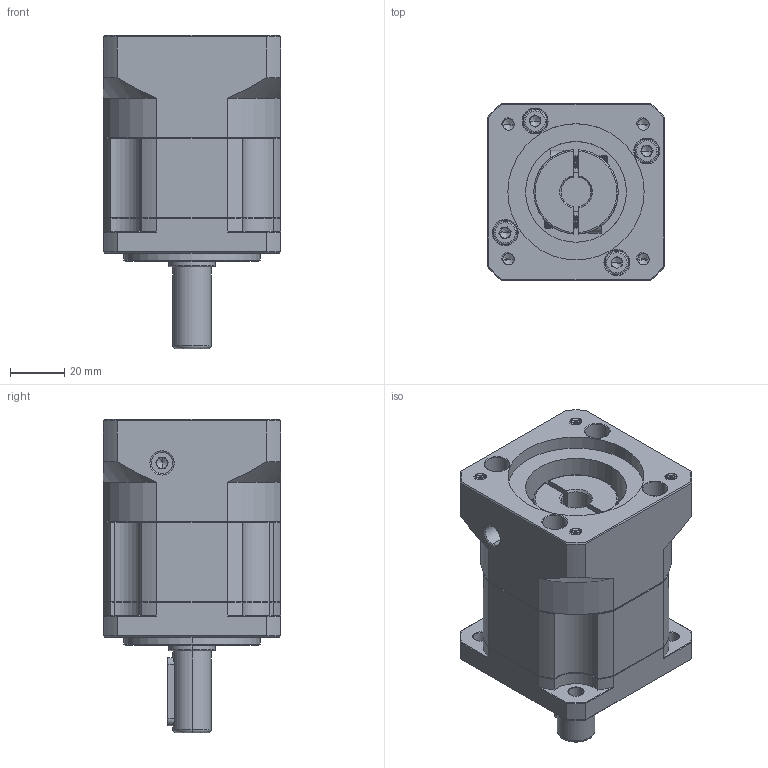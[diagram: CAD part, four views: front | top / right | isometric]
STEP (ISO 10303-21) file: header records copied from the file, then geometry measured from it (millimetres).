
FILE_DESCRIPTION (( 'STEP AP214' ), '1' );
FILE_NAME ('ZB60-D14-L1-11-50-70-M5.STEP', '2022-04-17T07:31:56', ( '' ), ( 'Microsoft' ), 'SwSTEP 2.0', 'SolidWorks 2016', '' );
FILE_SCHEMA (( 'AUTOMOTIVE_DESIGN' ));
Length unit declared in the file: millimetre
Products named in the file (1): ZB60-D14-L1-11-50-70-M5
Bounding box: 65 x 65 x 115 mm (x, y, z)
Volume: 269154.6 mm3; surface area: 54835.3 mm2
Topology: 6 solids, 6 shells, 1886 faces, 5005 edges, 3202 vertices
Faces by surface type: plane 879, cylinder 393, bspline 299, cone 279, torus 36
Entity records: 101669 total; most frequent: CARTESIAN_POINT 36516, ORIENTED_EDGE 9950, DIRECTION 8147, EDGE_CURVE 4975, VERTEX_POINT 3202, LINE 3033, VECTOR 3033, AXIS2_PLACEMENT_3D 2557
